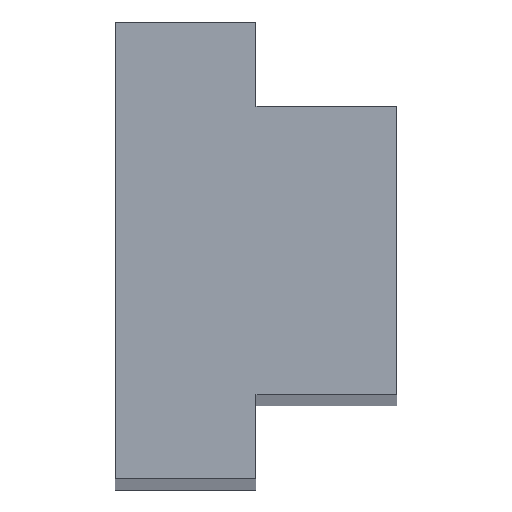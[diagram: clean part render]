
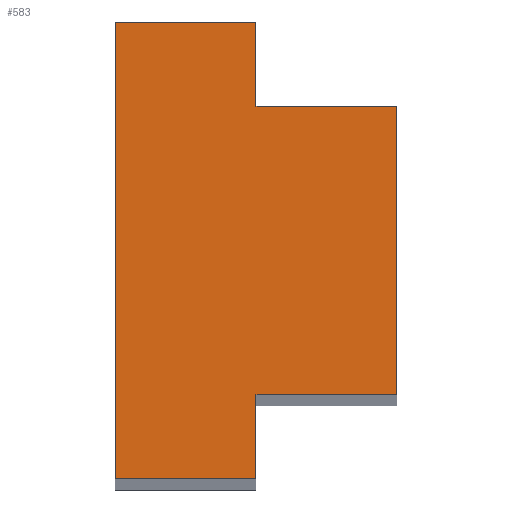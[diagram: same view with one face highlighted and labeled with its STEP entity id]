
A CAD part, top view. The second image highlights one B-rep face of the part: STEP entity #583.
In plain terms, the highlighted planar face has unit normal (0, 0, 1).
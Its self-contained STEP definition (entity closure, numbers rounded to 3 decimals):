
#12 = CARTESIAN_POINT ( 'NONE',  ( 8., 4.1, 90. ) ) ;
#14 = ORIENTED_EDGE ( 'NONE', *, *, #600, .T. ) ;
#17 = ORIENTED_EDGE ( 'NONE', *, *, #254, .T. ) ;
#19 = ORIENTED_EDGE ( 'NONE', *, *, #187, .T. ) ;
#23 = VERTEX_POINT ( 'NONE', #415 ) ;
#42 = CARTESIAN_POINT ( 'NONE',  ( 0., 6.5, 90. ) ) ;
#48 = CARTESIAN_POINT ( 'NONE',  ( 0., -6.5, 90. ) ) ;
#51 = LINE ( 'NONE', #192, #370 ) ;
#59 = LINE ( 'NONE', #385, #586 ) ;
#62 = CARTESIAN_POINT ( 'NONE',  ( 4., 6.5, 90. ) ) ;
#68 = EDGE_CURVE ( 'NONE', #412, #284, #611, .T. ) ;
#75 = DIRECTION ( 'NONE',  ( 0., 1., 0. ) ) ;
#118 = DIRECTION ( 'NONE',  ( -1., 0., 0. ) ) ;
#119 = ORIENTED_EDGE ( 'NONE', *, *, #552, .T. ) ;
#120 = CARTESIAN_POINT ( 'NONE',  ( 8., -4.1, 90. ) ) ;
#145 = EDGE_CURVE ( 'NONE', #284, #193, #334, .T. ) ;
#164 = PLANE ( 'NONE',  #287 ) ;
#171 = VECTOR ( 'NONE', #432, 1000. ) ;
#172 = EDGE_CURVE ( 'NONE', #377, #427, #59, .T. ) ;
#177 = CARTESIAN_POINT ( 'NONE',  ( 4., 4.1, 90. ) ) ;
#187 = EDGE_CURVE ( 'NONE', #449, #377, #51, .T. ) ;
#192 = CARTESIAN_POINT ( 'NONE',  ( 8., 4.1, 90. ) ) ;
#193 = VERTEX_POINT ( 'NONE', #288 ) ;
#203 = CARTESIAN_POINT ( 'NONE',  ( 4., -4.1, 90. ) ) ;
#214 = VERTEX_POINT ( 'NONE', #485 ) ;
#254 = EDGE_CURVE ( 'NONE', #427, #412, #297, .T. ) ;
#284 = VERTEX_POINT ( 'NONE', #48 ) ;
#287 = AXIS2_PLACEMENT_3D ( 'NONE', #353, #546, #118 ) ;
#288 = CARTESIAN_POINT ( 'NONE',  ( 4., -6.5, 90. ) ) ;
#294 = CARTESIAN_POINT ( 'NONE',  ( 0., -6.5, 90. ) ) ;
#297 = LINE ( 'NONE', #62, #407 ) ;
#300 = FACE_OUTER_BOUND ( 'NONE', #532, .T. ) ;
#311 = CARTESIAN_POINT ( 'NONE',  ( 4., -6.5, 90. ) ) ;
#314 = ORIENTED_EDGE ( 'NONE', *, *, #145, .T. ) ;
#334 = LINE ( 'NONE', #294, #483 ) ;
#339 = LINE ( 'NONE', #203, #171 ) ;
#340 = DIRECTION ( 'NONE',  ( 0., 1., 0. ) ) ;
#345 = ORIENTED_EDGE ( 'NONE', *, *, #172, .T. ) ;
#353 = CARTESIAN_POINT ( 'NONE',  ( 0., 0., 90. ) ) ;
#358 = VECTOR ( 'NONE', #496, 1000. ) ;
#359 = LINE ( 'NONE', #311, #560 ) ;
#370 = VECTOR ( 'NONE', #581, 1000. ) ;
#377 = VERTEX_POINT ( 'NONE', #177 ) ;
#385 = CARTESIAN_POINT ( 'NONE',  ( 4., 4.1, 90. ) ) ;
#390 = VECTOR ( 'NONE', #509, 1000. ) ;
#391 = DIRECTION ( 'NONE',  ( -1., 0., 0. ) ) ;
#395 = LINE ( 'NONE', #120, #358 ) ;
#401 = ORIENTED_EDGE ( 'NONE', *, *, #68, .T. ) ;
#407 = VECTOR ( 'NONE', #391, 1000. ) ;
#408 = ORIENTED_EDGE ( 'NONE', *, *, #519, .T. ) ;
#412 = VERTEX_POINT ( 'NONE', #42 ) ;
#415 = CARTESIAN_POINT ( 'NONE',  ( 4., -4.1, 90. ) ) ;
#427 = VERTEX_POINT ( 'NONE', #569 ) ;
#432 = DIRECTION ( 'NONE',  ( 1., 0., 0. ) ) ;
#449 = VERTEX_POINT ( 'NONE', #12 ) ;
#483 = VECTOR ( 'NONE', #488, 1000. ) ;
#485 = CARTESIAN_POINT ( 'NONE',  ( 8., -4.1, 90. ) ) ;
#488 = DIRECTION ( 'NONE',  ( 1., 0., 0. ) ) ;
#496 = DIRECTION ( 'NONE',  ( 0., 1., 0. ) ) ;
#509 = DIRECTION ( 'NONE',  ( 0., -1., 0. ) ) ;
#519 = EDGE_CURVE ( 'NONE', #23, #214, #339, .T. ) ;
#532 = EDGE_LOOP ( 'NONE', ( #14, #408, #119, #19, #345, #17, #401, #314 ) ) ;
#546 = DIRECTION ( 'NONE',  ( 0., 0., -1. ) ) ;
#552 = EDGE_CURVE ( 'NONE', #214, #449, #395, .T. ) ;
#560 = VECTOR ( 'NONE', #75, 1000. ) ;
#563 = CARTESIAN_POINT ( 'NONE',  ( 0., 6.5, 90. ) ) ;
#569 = CARTESIAN_POINT ( 'NONE',  ( 4., 6.5, 90. ) ) ;
#581 = DIRECTION ( 'NONE',  ( -1., 0., 0. ) ) ;
#583 = ADVANCED_FACE ( 'NONE', ( #300 ), #164, .F. ) ;
#586 = VECTOR ( 'NONE', #340, 1000. ) ;
#600 = EDGE_CURVE ( 'NONE', #193, #23, #359, .T. ) ;
#611 = LINE ( 'NONE', #563, #390 ) ;
